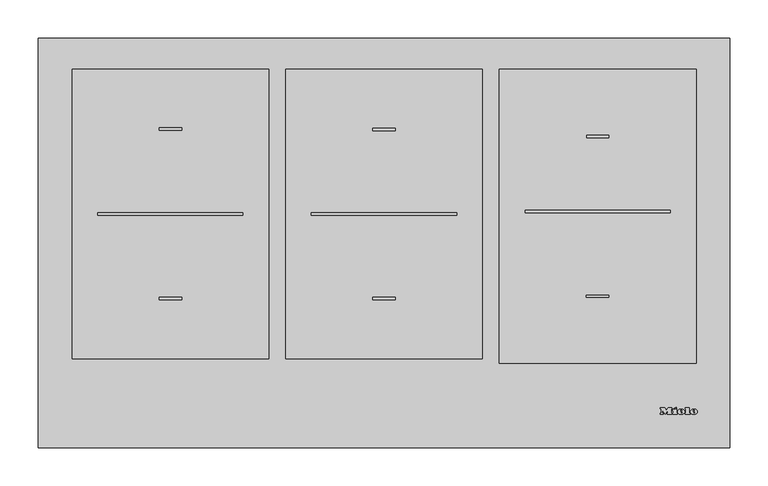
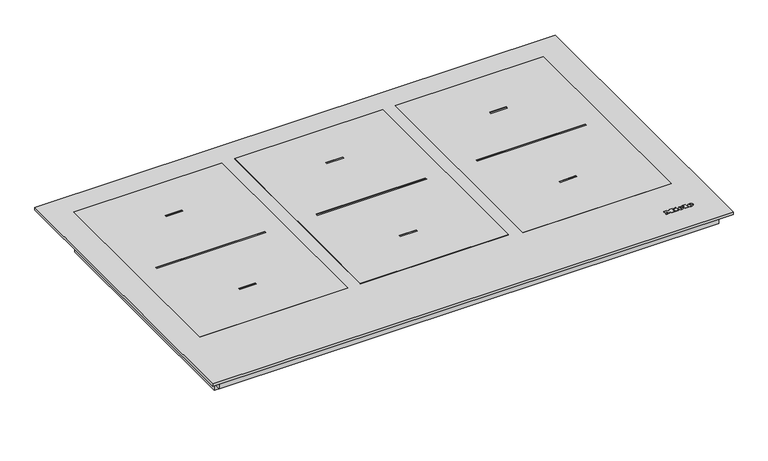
"""IFC4 building model written with IfcOpenShell, lengths in millimetres: proxy geometry, 12074230_USA_KM7745FL : 26774570_USA_12074230_KM7745FL."""

from ifc_helpers import new_model, si_unit, point, frame, origin, origin_with_axes, place, context, project, spatial, polyline, circle_curve, ellipse_curve, trimmed, outline, extrude, source, transform, mapped, element, save
from ifc_brep_helpers import plane_surface, cylinder_surface, revolved_surface, extruded_surface, advanced_brep


def specialty_equipment_211efaef(model_context):
    return source(origin(), model_context, "Body", "SolidModel", [
        extrude(outline(polyline([(337.5, 501.967223), (337.5, 406.967223), (397.5, 406.967223), (397.5, 81.0082872), (-405.5, 81.0082872), (-405.5, 501.967223), (337.5, 501.967223)])), frame((0.0, 0.0, -73.0), z_axis=(0.0, 0.0, 1.0), x_axis=(1.0, 0.0, 0.0)), (0.0, 0.0, 1.0), 55.0),
        extrude(outline(polyline([(436.5, 526.5), (436.5, 11.5), (-436.5, 11.5), (-436.5, 526.5), (436.5, 526.5)])), frame((0.0, 0.0, -18.0), z_axis=(0.0, 0.0, 1.0), x_axis=(1.0, 0.0, 0.0)), (0.0, 0.0, 1.0), 18.0),
        extrude(outline(polyline([(454.5, 538.0003766), (454.5, -0.0003766), (-454.5, -0.0003766), (-454.5, 538.0003766), (454.5, 538.0003766)])), origin_with_axes(), (0.0, 0.0, 1.0), 4.5),
        extrude(outline(polyline([(410.2473209, 497.0), (410.2473209, 111.0), (151.5, 111.0), (151.5, 497.0), (410.2473209, 497.0)]), holes=[polyline([(295.4698605, 200.2556038), (266.0230529, 200.2556038), (266.0230529, 197.1564661), (295.4698605, 197.1564661), (295.4698605, 200.2556038)]), polyline([(376.2158938, 311.549726), (185.4877045, 311.549726), (185.4877045, 308.3762259), (376.2158938, 308.3762259), (376.2158938, 311.549726)]), polyline([(295.4537401, 410.4884684), (266.1401489, 410.4884684), (266.1401489, 407.211829), (295.4537401, 407.211829), (295.4537401, 410.4884684)])]), frame((0.0, 0.0, 4.5), z_axis=(0.0, 0.0, 1.0), x_axis=(1.0, 0.0, 0.0)), (0.0, 0.0, 1.0), 1.0),
        extrude(outline(polyline([(-129.2132706, 497.1546346), (129.2157772, 497.1546346), (129.2157772, 116.7447982), (-129.2132706, 116.7447982), (-129.2132706, 497.1546346)]), holes=[polyline([(-14.7077058, 197.4482317), (-14.7077058, 194.1488947), (14.7472454, 194.1488947), (14.7472454, 197.4482317), (-14.7077058, 197.4482317)]), polyline([(-95.3413839, 308.5435116), (-95.3413839, 305.3131557), (95.3054774, 305.3131557), (95.3054774, 308.5435116), (-95.3413839, 308.5435116)]), polyline([(-14.7262138, 419.8093528), (-14.7262138, 416.5100157), (14.7287374, 416.5100157), (14.7287374, 419.8093528), (-14.7262138, 419.8093528)])]), frame((0.0, 0.0, 4.5), z_axis=(0.0, 0.0, 1.0), x_axis=(1.0, 0.0, 0.0)), (0.0, 0.0, 1.0), 1.0),
        extrude(outline(polyline([(-151.4331059, 497.2152698), (-151.4331059, 116.8054334), (-409.8621536, 116.8054334), (-409.8621536, 497.2152698), (-151.4331059, 497.2152698)]), holes=[polyline([(-265.9386706, 197.508867), (-295.3936218, 197.508867), (-295.3936218, 194.2095299), (-265.9386706, 194.2095299), (-265.9386706, 197.508867)]), polyline([(-185.3049926, 308.6041469), (-375.9518538, 308.6041469), (-375.9518538, 305.373791), (-185.3049926, 305.373791), (-185.3049926, 308.6041469)]), polyline([(-265.9201627, 419.869988), (-295.3751139, 419.869988), (-295.3751139, 416.570651), (-265.9201627, 416.570651), (-265.9201627, 419.869988)])]), frame((0.0, 0.0, 4.5), z_axis=(0.0, 0.0, 1.0), x_axis=(1.0, 0.0, 0.0)), (0.0, 0.0, 1.0), 1.0),
        extrude(outline(polyline([(-54.6543984, 357.2597012), (-44.6087674, 357.2597012), (-44.6087674, 350.0394039), (-45.8644713, 350.0394039), (-45.8644713, 356.0039974), (-48.846768, 356.0039974), (-48.846768, 350.3533299), (-50.1024718, 350.3533299), (-50.1024718, 356.0039974), (-53.3986945, 356.0039974), (-53.3986945, 349.882441), (-54.6543984, 349.882441), (-54.6543984, 357.2597012)])), frame((0.0, 449.5664955, 0.0), z_axis=(0.0, 1.0, 0.0), x_axis=(0.0, 0.0, 1.0)), (0.0, 0.0, 1.0), 1.0),
        extrude(outline(polyline([(-54.6543984, 347.9988851), (-44.6087674, 347.9988851), (-44.6087674, 346.7431813), (-53.3986945, 346.7431813), (-53.3986945, 341.7203658), (-54.6543984, 341.7203658), (-54.6543984, 347.9988851)])), frame((0.0, 449.5664955, 0.0), z_axis=(0.0, 1.0, 0.0), x_axis=(0.0, 0.0, 1.0)), (0.0, 0.0, 1.0), 1.0),
        advanced_brep(
        [(337.5, 417.9999912, -49.6543984), (337.5, 433.9999912, -49.6543984), (359.0665043, 417.9999912, -49.6543984), (343.0665043, 433.9999912, -49.6543984), (359.0665043, 449.5664955, -49.6543984), (343.0665043, 449.5664955, -49.6543984)],
        [
            (0, 1, circle_curve(frame((337.5, 425.9999912, -49.6543984), z_axis=(-1.0, 0.0, 0.0), x_axis=(0.0, 1.0, 0.0)), 8.0)),
            (1, 0, circle_curve(frame((337.5, 425.9999912, -49.6543984), z_axis=(-1.0, 0.0, 0.0), x_axis=(0.0, 1.0, 0.0)), 8.0)),
            (0, 2),
            (2, 3, ellipse_curve(frame((351.0665043, 425.9999912, -49.6543984), z_axis=(-0.7071067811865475, -0.7071067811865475, 0.0), x_axis=(-0.7071067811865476, 0.7071067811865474, 0.0)), 11.3137085, 8.0)),
            (3, 1),
            (3, 2, ellipse_curve(frame((351.0665043, 425.9999912, -49.6543984), z_axis=(-0.7071067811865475, -0.7071067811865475, 0.0), x_axis=(-0.7071067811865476, 0.7071067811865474, 0.0)), 11.3137085, 8.0)),
            (4, 5, circle_curve(frame((351.0665043, 449.5664955, -49.6543984), z_axis=(0.0, 1.0, 0.0), x_axis=(-1.0, 0.0, 0.0)), 8.0)),
            (5, 4, circle_curve(frame((351.0665043, 449.5664955, -49.6543984), z_axis=(0.0, 1.0, 0.0), x_axis=(-1.0, 0.0, 0.0)), 8.0)),
            (2, 4),
            (5, 3),
        ],
        [
            plane_surface(frame((337.5, 429.5664955, 50.5163179), z_axis=(-1.0, 0.0, 0.0), x_axis=(0.0, 0.0, 1.0))),
            cylinder_surface(frame((337.5, 425.9999912, -49.6543984), z_axis=(-1.0, 0.0, 0.0), x_axis=(0.0, 1.0, 0.0)), 8.0),
            plane_surface(frame((347.5, 449.5664955, 50.5163179), z_axis=(0.0, 1.0, 0.0), x_axis=(0.0, 0.0, 1.0))),
            cylinder_surface(frame((351.0665043, 429.5664955, -49.6543984), z_axis=(0.0, -1.0, 0.0), x_axis=(-1.0, 0.0, 0.0)), 8.0),
        ],
        [
            (0, [[1, 2]]),
            (1, [[-1, 3, 4, 5]]),
            (1, [[-2, -5, 6, -3]]),
            (2, [[7, 8]]),
            (3, [[-4, 9, -8, 10]]),
            (3, [[-6, -10, -7, -9]]),
        ],
    ),
        advanced_brep(
        [(406.460016, 45.896, 5.5), (406.460016, 46.704, 5.5), (411.812016, 46.704, 5.5), (402.500016, 46.704, 5.5), (404.700016, 44.0, 5.5), (411.676016, 45.896, 5.5), (409.260016, 45.896, 5.5), (407.356016, 45.0, 5.5), (406.460016, 47.728, 5.5), (406.460016, 48.6, 5.5), (407.828016, 48.6, 5.5), (407.828016, 47.728, 5.5), (406.460016, 45.896, 4.5), (407.356016, 45.0, 4.5), (409.260016, 45.896, 4.5), (411.676016, 45.896, 4.5), (404.700016, 44.0, 4.5), (402.500016, 46.704, 4.5), (411.812016, 46.704, 4.5), (406.460016, 46.704, 4.5), (406.460016, 47.728, 4.5), (407.828016, 47.728, 4.5), (407.828016, 48.6, 4.5), (406.460016, 48.6, 4.5)],
        [
            (0, 1),
            (1, 2),
            (2, 3, ellipse_curve(frame((407.156016, 46.704, 5.5), z_axis=(0.0, 0.0, 1.0), x_axis=(-1.0, 0.0, 0.0)), 4.656, 3.848)),
            (3, 4, circle_curve(frame((405.5960596, 46.976, 5.5), z_axis=(0.0, 0.0, 1.0), x_axis=(0.0, -1.0, 0.0)), 3.1079688)),
            (4, 5, circle_curve(frame((407.0628096, 49.088, 5.5), z_axis=(0.0, 0.0, 1.0), x_axis=(0.0, -1.0, 0.0)), 5.6098607)),
            (5, 6),
            (6, 7, circle_curve(frame((407.7470748, 46.64, 5.5), z_axis=(0.0, 0.0, -1.0), x_axis=(0.0, -1.0, 0.0)), 1.6859795)),
            (7, 0, circle_curve(frame((407.356016, 45.896, 5.5), z_axis=(0.0, 0.0, -1.0), x_axis=(0.0, -1.0, 0.0)), 0.896)),
            (8, 9),
            (9, 10, circle_curve(frame((407.144016, 48.6, 5.5), z_axis=(0.0, 0.0, -1.0), x_axis=(0.0, -1.0, 0.0)), 0.684)),
            (10, 11),
            (11, 8),
            (12, 13, circle_curve(frame((407.356016, 45.896, 4.5), z_axis=(0.0, 0.0, 1.0), x_axis=(0.0, -1.0, 0.0)), 0.896)),
            (13, 14, circle_curve(frame((407.7470748, 46.64, 4.5), z_axis=(0.0, 0.0, 1.0), x_axis=(0.0, -1.0, 0.0)), 1.6859795)),
            (14, 15),
            (15, 16, circle_curve(frame((407.0628096, 49.088, 4.5), z_axis=(0.0, 0.0, -1.0), x_axis=(0.0, -1.0, 0.0)), 5.6098607)),
            (16, 17, circle_curve(frame((405.5960596, 46.976, 4.5), z_axis=(0.0, 0.0, -1.0), x_axis=(0.0, -1.0, 0.0)), 3.1079688)),
            (17, 18, ellipse_curve(frame((407.156016, 46.704, 4.5), z_axis=(0.0, 0.0, -1.0), x_axis=(-1.0, 0.0, 0.0)), 4.656, 3.848)),
            (18, 19),
            (19, 12),
            (20, 21),
            (21, 22),
            (22, 23, circle_curve(frame((407.144016, 48.6, 4.5), z_axis=(0.0, 0.0, 1.0), x_axis=(0.0, -1.0, 0.0)), 0.684)),
            (23, 20),
            (0, 12),
            (19, 1),
            (18, 2),
            (5, 15),
            (14, 6),
            (17, 3),
            (13, 7),
            (16, 4),
            (8, 20),
            (23, 9),
            (22, 10),
            (21, 11),
        ],
        [
            plane_surface(frame((406.460016, 46.704, 5.5), z_axis=(0.0, 0.0, 1.0), x_axis=(0.0, 1.0, 0.0))),
            plane_surface(frame((406.460016, 46.704, 4.5), z_axis=(0.0, 0.0, -1.0), x_axis=(0.0, -1.0, 0.0))),
            plane_surface(frame((406.460016, 45.896, 5.5), z_axis=(1.0, 0.0, 0.0), x_axis=(0.0, 0.0, -1.0))),
            plane_surface(frame((406.460016, 46.704, 5.5), z_axis=(0.0, -1.0, 0.0), x_axis=(0.0, 0.0, -1.0))),
            plane_surface(frame((411.676016, 45.896, 5.5), z_axis=(0.0, 1.0, 0.0), x_axis=(0.0, 0.0, -1.0))),
            extruded_surface(trimmed(ellipse_curve(frame((407.156016, 46.704, 3.5), z_axis=(0.0, 0.0, 1.0), x_axis=(-1.0, 0.0, 0.0)), 4.656, 3.848), [point((411.812016, 46.704, 3.5))], [point((402.500016, 46.704, 3.5))], True, "CARTESIAN"), (0.0, 0.0, 1.0), 1.0),
            revolved_surface(polyline([(407.7470748, 44.9540205, 4.5), (407.7470748, 44.9540205, 5.5)]), (407.7470748, 46.64, 4.5), (0.0, 0.0, -1.0)),
            revolved_surface(polyline([(407.356016, 45.0, 4.5), (407.356016, 45.0, 5.5)]), (407.356016, 45.896, 4.5), (0.0, 0.0, -1.0)),
            cylinder_surface(frame((405.5960596, 46.976, 4.5), z_axis=(0.0, 0.0, 1.0), x_axis=(0.0, -1.0, 0.0)), 3.1079688),
            cylinder_surface(frame((407.0628096, 49.088, 4.5), z_axis=(0.0, 0.0, 1.0), x_axis=(0.0, -1.0, 0.0)), 5.6098607),
            plane_surface(frame((406.460016, 47.728, 5.5), z_axis=(1.0, 0.0, 0.0), x_axis=(0.0, 0.0, -1.0))),
            revolved_surface(polyline([(407.144016, 47.916000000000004, 4.5), (407.144016, 47.916000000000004, 5.5)]), (407.144016, 48.6, 4.5), (0.0, 0.0, -1.0)),
            plane_surface(frame((407.828016, 48.6, 5.5), z_axis=(-1.0, 0.0, 0.0), x_axis=(0.0, 0.0, -1.0))),
            plane_surface(frame((407.828016, 47.728, 5.5), z_axis=(0.0, 1.0, 0.0), x_axis=(0.0, 0.0, -1.0))),
        ],
        [
            (0, [[1, 2, 3, 4, 5, 6, 7, 8], [9, 10, 11, 12]]),
            (1, [[13, 14, 15, 16, 17, 18, 19, 20], [21, 22, 23, 24]]),
            (2, [[-1, 25, -20, 26]]),
            (3, [[-2, -26, -19, 27]]),
            (4, [[-6, 28, -15, 29]]),
            (5, [[-3, -27, -18, 30]]),
            (6, [[-7, -29, -14, 31]]),
            (7, [[-8, -31, -13, -25]]),
            (8, [[-4, -30, -17, 32]]),
            (9, [[-5, -32, -16, -28]]),
            (10, [[-9, 33, -24, 34]]),
            (11, [[-10, -34, -23, 35]]),
            (12, [[-11, -35, -22, 36]]),
            (13, [[-12, -36, -21, -33]]),
        ],
    ),
        advanced_brep(
        [(389.764016, 45.896, 5.5), (389.764016, 46.704, 5.5), (395.116016, 46.704, 5.5), (385.804016, 46.704, 5.5), (388.004016, 44.0, 5.5), (394.980016, 45.896, 5.5), (392.564016, 45.896, 5.5), (390.660016, 45.0, 5.5), (389.764016, 47.728, 5.5), (389.764016, 48.6, 5.5), (391.132016, 48.6, 5.5), (391.132016, 47.728, 5.5), (389.764016, 45.896, 4.5), (390.660016, 45.0, 4.5), (392.564016, 45.896, 4.5), (394.980016, 45.896, 4.5), (388.004016, 44.0, 4.5), (385.804016, 46.704, 4.5), (395.116016, 46.704, 4.5), (389.764016, 46.704, 4.5), (389.764016, 47.728, 4.5), (391.132016, 47.728, 4.5), (391.132016, 48.6, 4.5), (389.764016, 48.6, 4.5)],
        [
            (0, 1),
            (1, 2),
            (2, 3, ellipse_curve(frame((390.460016, 46.704, 5.5), z_axis=(0.0, 0.0, 1.0), x_axis=(-1.0, 0.0, 0.0)), 4.656, 3.848)),
            (3, 4, circle_curve(frame((388.9000596, 46.976, 5.5), z_axis=(0.0, 0.0, 1.0), x_axis=(0.0, -1.0, 0.0)), 3.1079688)),
            (4, 5, circle_curve(frame((390.3668096, 49.088, 5.5), z_axis=(0.0, 0.0, 1.0), x_axis=(0.0, -1.0, 0.0)), 5.6098607)),
            (5, 6),
            (6, 7, circle_curve(frame((391.0510748, 46.64, 5.5), z_axis=(0.0, 0.0, -1.0), x_axis=(0.0, -1.0, 0.0)), 1.6859795)),
            (7, 0, circle_curve(frame((390.660016, 45.896, 5.5), z_axis=(0.0, 0.0, -1.0), x_axis=(0.0, -1.0, 0.0)), 0.896)),
            (8, 9),
            (9, 10, circle_curve(frame((390.448016, 48.6, 5.5), z_axis=(0.0, 0.0, -1.0), x_axis=(0.0, -1.0, 0.0)), 0.684)),
            (10, 11),
            (11, 8),
            (12, 13, circle_curve(frame((390.660016, 45.896, 4.5), z_axis=(0.0, 0.0, 1.0), x_axis=(0.0, -1.0, 0.0)), 0.896)),
            (13, 14, circle_curve(frame((391.0510748, 46.64, 4.5), z_axis=(0.0, 0.0, 1.0), x_axis=(0.0, -1.0, 0.0)), 1.6859795)),
            (14, 15),
            (15, 16, circle_curve(frame((390.3668096, 49.088, 4.5), z_axis=(0.0, 0.0, -1.0), x_axis=(0.0, -1.0, 0.0)), 5.6098607)),
            (16, 17, circle_curve(frame((388.9000596, 46.976, 4.5), z_axis=(0.0, 0.0, -1.0), x_axis=(0.0, -1.0, 0.0)), 3.1079688)),
            (17, 18, ellipse_curve(frame((390.460016, 46.704, 4.5), z_axis=(0.0, 0.0, -1.0), x_axis=(-1.0, 0.0, 0.0)), 4.656, 3.848)),
            (18, 19),
            (19, 12),
            (20, 21),
            (21, 22),
            (22, 23, circle_curve(frame((390.448016, 48.6, 4.5), z_axis=(0.0, 0.0, 1.0), x_axis=(0.0, -1.0, 0.0)), 0.684)),
            (23, 20),
            (0, 12),
            (19, 1),
            (18, 2),
            (5, 15),
            (14, 6),
            (17, 3),
            (13, 7),
            (16, 4),
            (8, 20),
            (23, 9),
            (22, 10),
            (21, 11),
        ],
        [
            plane_surface(frame((389.764016, 46.704, 5.5), z_axis=(0.0, 0.0, 1.0), x_axis=(0.0, 1.0, 0.0))),
            plane_surface(frame((389.764016, 46.704, 4.5), z_axis=(0.0, 0.0, -1.0), x_axis=(0.0, -1.0, 0.0))),
            plane_surface(frame((389.764016, 45.896, 5.5), z_axis=(1.0, 0.0, 0.0), x_axis=(0.0, 0.0, -1.0))),
            plane_surface(frame((389.764016, 46.704, 5.5), z_axis=(0.0, -1.0, 0.0), x_axis=(0.0, 0.0, -1.0))),
            plane_surface(frame((394.980016, 45.896, 5.5), z_axis=(0.0, 1.0, 0.0), x_axis=(0.0, 0.0, -1.0))),
            extruded_surface(trimmed(ellipse_curve(frame((390.460016, 46.704, 3.5), z_axis=(0.0, 0.0, 1.0), x_axis=(-1.0, 0.0, 0.0)), 4.656, 3.848), [point((395.116016, 46.704, 3.5))], [point((385.804016, 46.704, 3.5))], True, "CARTESIAN"), (0.0, 0.0, 1.0), 1.0),
            revolved_surface(polyline([(391.0510748, 44.9540205, 4.5), (391.0510748, 44.9540205, 5.5)]), (391.0510748, 46.64, 4.5), (0.0, 0.0, -1.0)),
            revolved_surface(polyline([(390.660016, 45.0, 4.5), (390.660016, 45.0, 5.5)]), (390.660016, 45.896, 4.5), (0.0, 0.0, -1.0)),
            cylinder_surface(frame((388.9000596, 46.976, 4.5), z_axis=(0.0, 0.0, 1.0), x_axis=(0.0, -1.0, 0.0)), 3.1079688),
            cylinder_surface(frame((390.3668096, 49.088, 4.5), z_axis=(0.0, 0.0, 1.0), x_axis=(0.0, -1.0, 0.0)), 5.6098607),
            plane_surface(frame((389.764016, 47.728, 5.5), z_axis=(1.0, 0.0, 0.0), x_axis=(0.0, 0.0, -1.0))),
            revolved_surface(polyline([(390.448016, 47.916000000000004, 4.5), (390.448016, 47.916000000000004, 5.5)]), (390.448016, 48.6, 4.5), (0.0, 0.0, -1.0)),
            plane_surface(frame((391.132016, 48.6, 5.5), z_axis=(-1.0, 0.0, 0.0), x_axis=(0.0, 0.0, -1.0))),
            plane_surface(frame((391.132016, 47.728, 5.5), z_axis=(0.0, 1.0, 0.0), x_axis=(0.0, 0.0, -1.0))),
        ],
        [
            (0, [[1, 2, 3, 4, 5, 6, 7, 8], [9, 10, 11, 12]]),
            (1, [[13, 14, 15, 16, 17, 18, 19, 20], [21, 22, 23, 24]]),
            (2, [[-1, 25, -20, 26]]),
            (3, [[-2, -26, -19, 27]]),
            (4, [[-6, 28, -15, 29]]),
            (5, [[-3, -27, -18, 30]]),
            (6, [[-7, -29, -14, 31]]),
            (7, [[-8, -31, -13, -25]]),
            (8, [[-4, -30, -17, 32]]),
            (9, [[-5, -32, -16, -28]]),
            (10, [[-9, 33, -24, 34]]),
            (11, [[-10, -34, -23, 35]]),
            (12, [[-11, -35, -22, 36]]),
            (13, [[-12, -36, -21, -33]]),
        ],
    ),
        extrude(outline(polyline([(381.020016, 51.528), (383.740016, 52.792), (384.340016, 51.496), (381.628016, 50.232), (381.020016, 51.528)])), frame((0.0, 0.0, 4.5), z_axis=(0.0, 0.0, 1.0), x_axis=(1.0, 0.0, 0.0)), (0.0, 0.0, 1.0), 1.0),
        extrude(outline(polyline([(379.044016, 50.056), (384.428016, 50.056), (384.428016, 45.344), (385.356016, 45.344), (385.356016, 44.0), (379.044016, 44.0), (379.044016, 45.344), (379.996016, 45.344), (379.996016, 48.624), (379.044016, 48.624), (379.044016, 50.056)])), frame((0.0, 0.0, 4.5), z_axis=(0.0, 0.0, 1.0), x_axis=(1.0, 0.0, 0.0)), (0.0, 0.0, 1.0), 1.0),
        extrude(outline(polyline([(395.564016, 50.696), (395.564016, 52.0), (401.068016, 52.0), (401.068016, 45.344), (402.052016, 45.344), (402.052016, 44.0), (395.564016, 44.0), (395.564016, 45.344), (396.524016, 45.344), (396.524016, 50.696), (395.564016, 50.696)])), frame((0.0, 0.0, 4.5), z_axis=(0.0, 0.0, 1.0), x_axis=(1.0, 0.0, 0.0)), (0.0, 0.0, 1.0), 1.0),
        extrude(outline(polyline([(363.100016, 50.696), (363.100016, 52.0), (368.676016, 52.0), (371.020016, 49.0), (373.356016, 52.0), (378.228016, 52.0), (378.228016, 50.696), (377.212016, 50.696), (377.212016, 45.344), (378.228016, 45.344), (378.228016, 44.0), (371.844016, 44.0), (371.844016, 45.344), (372.828016, 45.344), (372.828016, 48.8152223), (369.236016, 44.0), (365.660016, 48.7471247), (365.660016, 45.344), (366.620016, 45.344), (366.620016, 44.0), (363.100016, 44.0), (363.100016, 45.344), (364.068016, 45.344), (364.068016, 50.696), (363.100016, 50.696)])), frame((0.0, 0.0, 4.5), z_axis=(0.0, 0.0, 1.0), x_axis=(1.0, 0.0, 0.0)), (0.0, 0.0, 1.0), 1.0),
    ])


if __name__ == "__main__":
    model = new_model("IFC4")
    model_context = context("Model", 3, world=origin())
    ifc_project = project(units=[si_unit("LENGTHUNIT", "METRE", prefix="MILLI")], contexts=[model_context])
    site = spatial("IfcSite", under=ifc_project)
    building = spatial("IfcBuilding", under=site)
    placement = place(None, origin())
    specialty_equipment_shape = specialty_equipment_211efaef(model_context)
    element("IfcBuildingElementProxy", 1, Name="12074230_USA_KM7745FL : 26774570_USA_12074230_KM7745FL", ObjectType="12074230_USA_KM7745FL : 26774570_USA_12074230_KM7745FL", at=placement, inside=building, context=model_context, shape_type="MappedRepresentation", body=[
        mapped(specialty_equipment_shape, transform((0.0, 0.0, 0.0), x_axis=(1.0, 0.0, 0.0), y_axis=(0.0, 1.0, 0.0), z_axis=(0.0, 0.0, 1.0))),
    ])
    save(model, "model.ifc")
